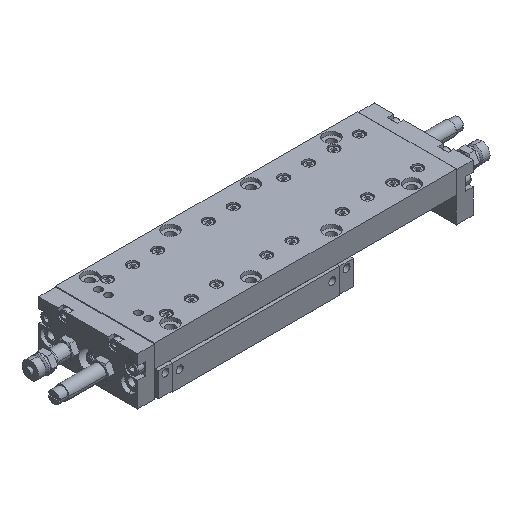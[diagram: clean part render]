
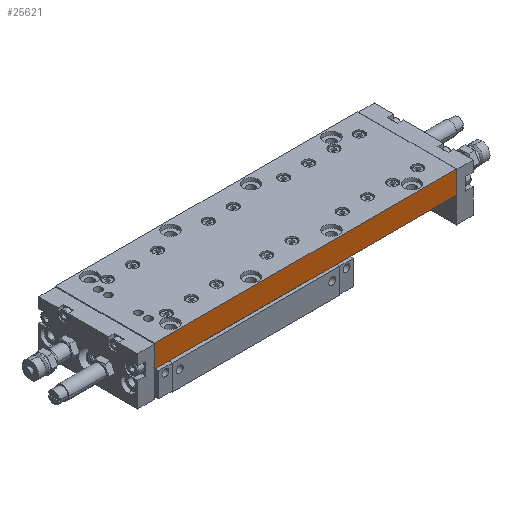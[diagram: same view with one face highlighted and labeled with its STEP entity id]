
A CAD part, isometric view. The second image highlights one B-rep face of the part: STEP entity #25621.
In plain terms, the highlighted planar face has unit normal (0, -1, 0).
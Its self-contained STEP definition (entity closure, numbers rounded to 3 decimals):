
#25566=CARTESIAN_POINT('',(190.,0.,30.));
#25567=DIRECTION('',(0.0,-1.0,0.0));
#25568=DIRECTION('',(0.0,0.0,-1.0));
#25569=AXIS2_PLACEMENT_3D('',#25566,#25567,#25568);
#25570=PLANE('',#25569);
#25571=CARTESIAN_POINT('',(10.,0.,30.));
#25572=VERTEX_POINT('',#25571);
#25573=CARTESIAN_POINT('',(10.,0.,29.5));
#25574=VERTEX_POINT('',#25573);
#25575=CARTESIAN_POINT('',(10.,0.,30.));
#25576=DIRECTION('',(0.,0.,-1.0));
#25577=VECTOR('',#25576,0.5);
#25578=LINE('',#25575,#25577);
#25579=EDGE_CURVE('',#25572,#25574,#25578,.T.);
#25580=ORIENTED_EDGE('',*,*,#25579,.T.);
#25581=CARTESIAN_POINT('',(10.,0.,16.5));
#25582=VERTEX_POINT('',#25581);
#25583=CARTESIAN_POINT('',(10.,0.,29.5));
#25584=DIRECTION('',(0.0,0.0,-1.0));
#25585=VECTOR('',#25584,13.);
#25586=LINE('',#25583,#25585);
#25587=EDGE_CURVE('',#25574,#25582,#25586,.T.);
#25588=ORIENTED_EDGE('',*,*,#25587,.T.);
#25589=CARTESIAN_POINT('',(190.,0.,16.5));
#25590=VERTEX_POINT('',#25589);
#25591=CARTESIAN_POINT('',(190.,0.,16.5));
#25592=DIRECTION('',(-1.0,0.0,0.0));
#25593=VECTOR('',#25592,180.0);
#25594=LINE('',#25591,#25593);
#25595=EDGE_CURVE('',#25590,#25582,#25594,.T.);
#25596=ORIENTED_EDGE('',*,*,#25595,.F.);
#25597=CARTESIAN_POINT('',(190.,0.,29.5));
#25598=VERTEX_POINT('',#25597);
#25599=CARTESIAN_POINT('',(190.,0.,29.5));
#25600=DIRECTION('',(0.0,0.0,-1.0));
#25601=VECTOR('',#25600,13.);
#25602=LINE('',#25599,#25601);
#25603=EDGE_CURVE('',#25598,#25590,#25602,.T.);
#25604=ORIENTED_EDGE('',*,*,#25603,.F.);
#25605=CARTESIAN_POINT('',(190.,0.,30.));
#25606=VERTEX_POINT('',#25605);
#25607=CARTESIAN_POINT('',(190.,0.,30.));
#25608=DIRECTION('',(0.,0.,-1.0));
#25609=VECTOR('',#25608,0.5);
#25610=LINE('',#25607,#25609);
#25611=EDGE_CURVE('',#25606,#25598,#25610,.T.);
#25612=ORIENTED_EDGE('',*,*,#25611,.F.);
#25613=CARTESIAN_POINT('',(190.,0.,30.));
#25614=DIRECTION('',(-1.0,0.0,0.0));
#25615=VECTOR('',#25614,180.0);
#25616=LINE('',#25613,#25615);
#25617=EDGE_CURVE('',#25606,#25572,#25616,.T.);
#25618=ORIENTED_EDGE('',*,*,#25617,.T.);
#25619=EDGE_LOOP('',(#25580,#25588,#25596,#25604,#25612,#25618));
#25620=FACE_OUTER_BOUND('',#25619,.T.);
#25621=ADVANCED_FACE('',(#25620),#25570,.T.);
